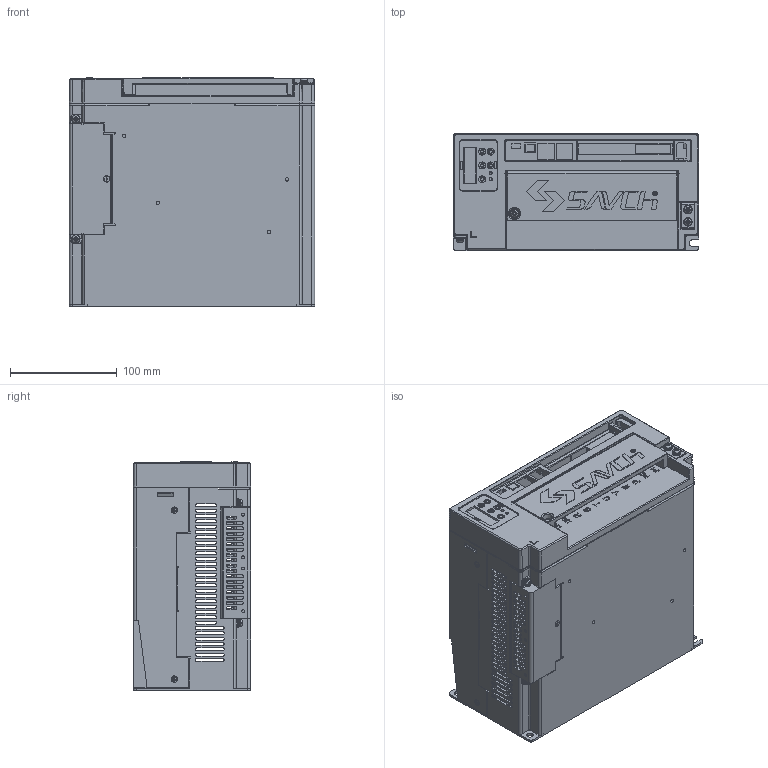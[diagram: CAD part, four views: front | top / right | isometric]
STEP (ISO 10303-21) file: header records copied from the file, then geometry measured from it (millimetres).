
FILE_DESCRIPTION((''),'2;1');
FILE_NAME('SDA2-D_ASM','2023-08-02T17:18:31',('ZhangJF'),(''),'CREO PARAMETRIC BY PTC INC, 2019010','CREO PARAMETRIC BY PTC INC, 2019010','');
FILE_SCHEMA(('CONFIG_CONTROL_DESIGN','SHAPE_APPEARANCE_LAYERS_GROUPS'));
Products named in the file (16): MANIFOLD_SOLID_BREP_28058_2; MANIFOLD_SOLID_BREP_28076_2; MANIFOLD_SOLID_BREP_28083_2; MANIFOLD_SOLID_BREP_28084_3; SDA2-2015-9-16-OK_ASM_3_ASM; CEBAN_2; DIZUO_2_1; DIZUO_2_2; DIZUO_2_ASM; FENGSHANZHIJIA_2; LUOSI_2_1; LUOSI_2_2; LUOSI_2_ASM; PINGTOULUOSI_1; SDA2-2015-9-16-3D_ASM_5_ASM; SDA2-D_ASM
Assembly tree (23 placements, depth 4):
  SDA2-D_ASM
    SDA2-2015-9-16-3D_ASM_5_ASM
      SDA2-2015-9-16-OK_ASM_3_ASM
        MANIFOLD_SOLID_BREP_28058_2
        MANIFOLD_SOLID_BREP_28076_2
        MANIFOLD_SOLID_BREP_28083_2
        MANIFOLD_SOLID_BREP_28084_3
      CEBAN_2
      DIZUO_2_ASM
        DIZUO_2_1
        DIZUO_2_2
      FENGSHANZHIJIA_2
      LUOSI_2_ASM  x5
        LUOSI_2_1
        LUOSI_2_2
      PINGTOULUOSI_1  x5
Bounding box: 230.06 x 110.03 x 214.5 mm (x, y, z)
Volume: 392685.6 mm3; surface area: 496439.3 mm2
Topology: 23 solids, 23 shells, 3669 faces, 10671 edges, 7098 vertices
Faces by surface type: plane 2203, cylinder 1066, cone 100, extrusion 99, torus 82, bspline 71, sphere 48
Entity records: 119307 total; most frequent: CARTESIAN_POINT 26259, ORIENTED_EDGE 19838, DIRECTION 18430, EDGE_CURVE 9919, VECTOR 6824, LINE 6725, VERTEX_POINT 6618, AXIS2_PLACEMENT_3D 5803
